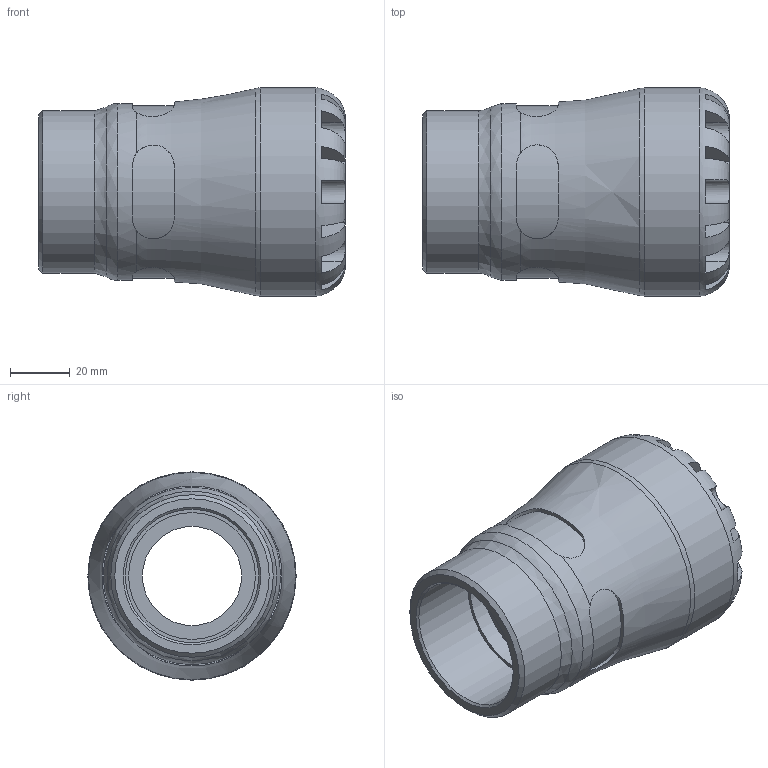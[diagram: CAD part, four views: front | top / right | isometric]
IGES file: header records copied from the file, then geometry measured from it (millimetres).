
Global section: file name: 100300040015_190300040015.ipt; native system: Autodesk Inventor 2015; preprocessor: unknown; author: KIM; date: 20170122.094954; units: millimetre
Bounding box: 103 x 70 x 70 mm (x, y, z)
Volume: 173886.6 mm3; surface area: 39222 mm2
Topology: 1 solids, 1 shells, 104 faces, 279 edges, 180 vertices
Faces by surface type: plane 61, revolution 27, cylinder 15, cone 1
Full cylindrical faces by diameter (mm): 54.6 x1, 59.5 x1, 70 x1
